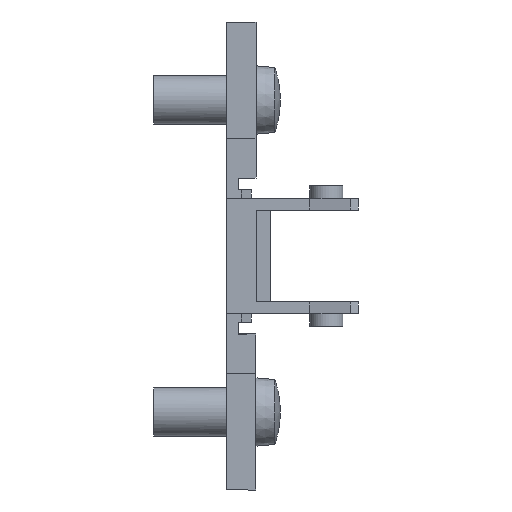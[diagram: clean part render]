
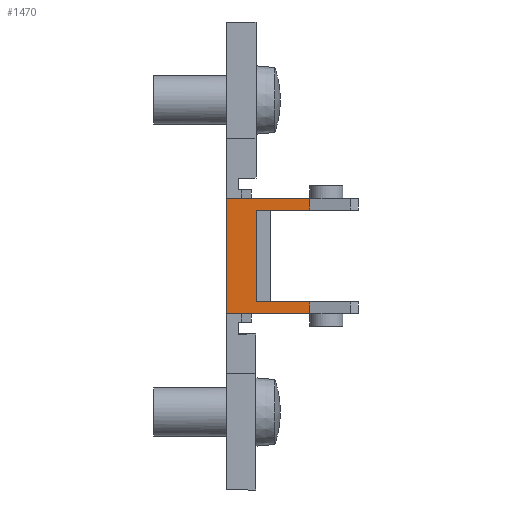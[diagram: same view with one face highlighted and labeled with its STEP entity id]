
A CAD part, front view. The second image highlights one B-rep face of the part: STEP entity #1470.
In plain terms, the highlighted planar face has unit normal (0, -1, 0).
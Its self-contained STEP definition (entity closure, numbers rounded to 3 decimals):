
#173 = ORIENTED_EDGE ( 'NONE', *, *, #2012, .F. ) ;
#174 = ORIENTED_EDGE ( 'NONE', *, *, #2159, .F. ) ;
#175 = ORIENTED_EDGE ( 'NONE', *, *, #2033, .T. ) ;
#176 = ORIENTED_EDGE ( 'NONE', *, *, #2120, .T. ) ;
#177 = ORIENTED_EDGE ( 'NONE', *, *, #2086, .T. ) ;
#178 = ORIENTED_EDGE ( 'NONE', *, *, #2009, .F. ) ;
#179 = ORIENTED_EDGE ( 'NONE', *, *, #2013, .T. ) ;
#180 = ORIENTED_EDGE ( 'NONE', *, *, #2220, .F. ) ;
#314 = EDGE_LOOP ( 'NONE', ( #180, #179, #178, #177, #176, #175, #174, #173 ) ) ;
#422 = FACE_OUTER_BOUND ( 'NONE', #314, .T. ) ;
#542 = LINE ( 'NONE', #3670, #548 ) ;
#548 = VECTOR ( 'NONE', #3673, 1000. ) ;
#549 = VECTOR ( 'NONE', #3678, 1000. ) ;
#552 = LINE ( 'NONE', #3672, #549 ) ;
#554 = LINE ( 'NONE', #3679, #555 ) ;
#555 = VECTOR ( 'NONE', #3680, 1000. ) ;
#576 = LINE ( 'NONE', #3705, #577 ) ;
#577 = VECTOR ( 'NONE', #3706, 1000. ) ;
#635 = LINE ( 'NONE', #3776, #637 ) ;
#637 = VECTOR ( 'NONE', #3786, 1000. ) ;
#670 = LINE ( 'NONE', #3822, #672 ) ;
#672 = VECTOR ( 'NONE', #3830, 1000. ) ;
#718 = LINE ( 'NONE', #3892, #719 ) ;
#719 = VECTOR ( 'NONE', #3893, 1000. ) ;
#803 = LINE ( 'NONE', #3991, #804 ) ;
#804 = VECTOR ( 'NONE', #3992, 1000. ) ;
#1470 = ADVANCED_FACE ( 'NONE', ( #422 ), #3163, .T. ) ;
#1530 = VERTEX_POINT ( 'NONE', #3366 ) ;
#1653 = VERTEX_POINT ( 'NONE', #3454 ) ;
#1684 = VERTEX_POINT ( 'NONE', #3484 ) ;
#1685 = VERTEX_POINT ( 'NONE', #3485 ) ;
#1687 = VERTEX_POINT ( 'NONE', #3487 ) ;
#1688 = VERTEX_POINT ( 'NONE', #3488 ) ;
#1689 = VERTEX_POINT ( 'NONE', #3489 ) ;
#1771 = VERTEX_POINT ( 'NONE', #3565 ) ;
#2009 = EDGE_CURVE ( 'NONE', #1685, #1687, #542, .T. ) ;
#2012 = EDGE_CURVE ( 'NONE', #1688, #1530, #552, .T. ) ;
#2013 = EDGE_CURVE ( 'NONE', #1689, #1687, #554, .T. ) ;
#2033 = EDGE_CURVE ( 'NONE', #1771, #1653, #576, .T. ) ;
#2086 = EDGE_CURVE ( 'NONE', #1685, #1684, #635, .T. ) ;
#2120 = EDGE_CURVE ( 'NONE', #1684, #1771, #670, .T. ) ;
#2159 = EDGE_CURVE ( 'NONE', #1530, #1653, #718, .T. ) ;
#2220 = EDGE_CURVE ( 'NONE', #1689, #1688, #803, .T. ) ;
#2496 = AXIS2_PLACEMENT_3D ( 'NONE', #3166, #3172, #3173 ) ;
#3163 = PLANE ( 'NONE',  #2496 ) ;
#3166 = CARTESIAN_POINT ( 'NONE',  ( 13.5, -16.55, -5.9 ) ) ;
#3172 = DIRECTION ( 'NONE',  ( 0., -1., 0. ) ) ;
#3173 = DIRECTION ( 'NONE',  ( -1., 0., 0. ) ) ;
#3366 = CARTESIAN_POINT ( 'NONE',  ( 8.523, -16.55, -4.7 ) ) ;
#3454 = CARTESIAN_POINT ( 'NONE',  ( 8.523, -16.55, -5.9 ) ) ;
#3484 = CARTESIAN_POINT ( 'NONE',  ( 0., -16.55, 5.9 ) ) ;
#3485 = CARTESIAN_POINT ( 'NONE',  ( 8.523, -16.55, 5.9 ) ) ;
#3487 = CARTESIAN_POINT ( 'NONE',  ( 8.523, -16.55, 4.7 ) ) ;
#3488 = CARTESIAN_POINT ( 'NONE',  ( 3., -16.55, -4.7 ) ) ;
#3489 = CARTESIAN_POINT ( 'NONE',  ( 3., -16.55, 4.7 ) ) ;
#3565 = CARTESIAN_POINT ( 'NONE',  ( 0., -16.55, -5.9 ) ) ;
#3670 = CARTESIAN_POINT ( 'NONE',  ( 8.523, -16.55, 67.733 ) ) ;
#3672 = CARTESIAN_POINT ( 'NONE',  ( 13.5, -16.55, -4.7 ) ) ;
#3673 = DIRECTION ( 'NONE',  ( 0., 0., -1. ) ) ;
#3678 = DIRECTION ( 'NONE',  ( 1., 0., 0. ) ) ;
#3679 = CARTESIAN_POINT ( 'NONE',  ( 13.5, -16.55, 4.7 ) ) ;
#3680 = DIRECTION ( 'NONE',  ( 1., 0., 0. ) ) ;
#3705 = CARTESIAN_POINT ( 'NONE',  ( 1.5, -16.55, -5.9 ) ) ;
#3706 = DIRECTION ( 'NONE',  ( 1., 0., 0. ) ) ;
#3776 = CARTESIAN_POINT ( 'NONE',  ( 13.5, -16.55, 5.9 ) ) ;
#3786 = DIRECTION ( 'NONE',  ( -1., 0., 0. ) ) ;
#3822 = CARTESIAN_POINT ( 'NONE',  ( 0., -16.55, 15.37 ) ) ;
#3830 = DIRECTION ( 'NONE',  ( 0., 0., -1. ) ) ;
#3892 = CARTESIAN_POINT ( 'NONE',  ( 8.523, -16.55, 67.733 ) ) ;
#3893 = DIRECTION ( 'NONE',  ( 0., 0., -1. ) ) ;
#3991 = CARTESIAN_POINT ( 'NONE',  ( 3., -16.55, -5.9 ) ) ;
#3992 = DIRECTION ( 'NONE',  ( 0., 0., -1. ) ) ;
